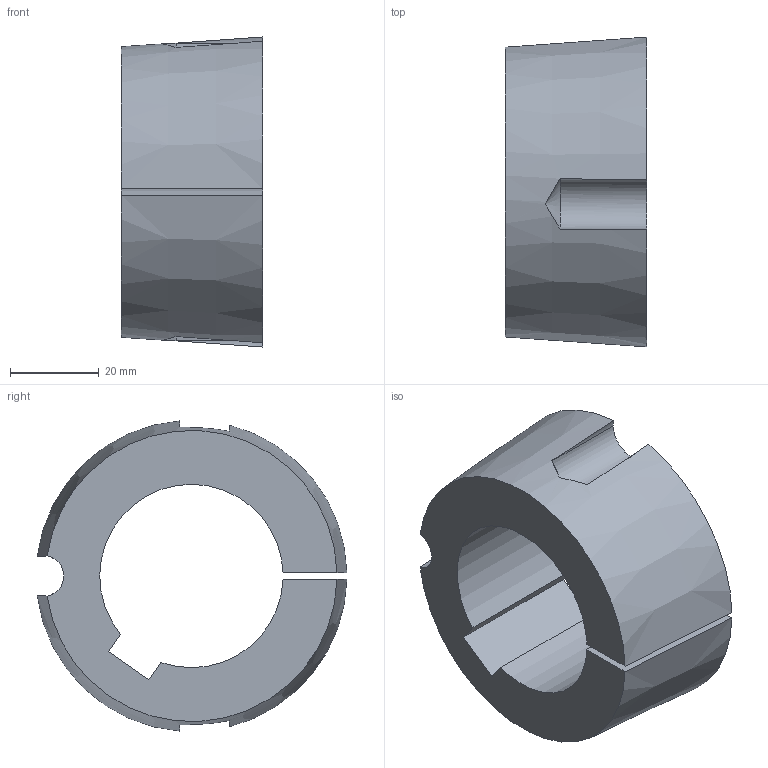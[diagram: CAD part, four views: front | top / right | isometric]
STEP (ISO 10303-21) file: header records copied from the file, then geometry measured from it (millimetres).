
FILE_DESCRIPTION( ( '' ), '1' );
FILE_NAME( 'C:/Users/StangenbergN/Desktop/06.02.2019_steps/6225054127.stp', '2019-02-06T20:02:17', ( '' ), ( '' ), ' ', ' ', ' ' );
FILE_SCHEMA( ( 'CONFIG_CONTROL_DESIGN' ) );
Length unit declared in the file: millimetre
Products named in the file (1): 1
Bounding box: 31.8 x 69.72 x 69.81 mm (x, y, z)
Volume: 66500.9 mm3; surface area: 16705.2 mm2
Topology: 1 solids, 1 shells, 24 faces, 64 edges, 42 vertices
Faces by surface type: cylinder 11, plane 7, cone 6
Entity records: 972 total; most frequent: CARTESIAN_POINT 331, ORIENTED_EDGE 128, DIRECTION 126, EDGE_CURVE 64, AXIS2_PLACEMENT_3D 51, VERTEX_POINT 42, CIRCLE 26, ADVANCED_FACE 24
